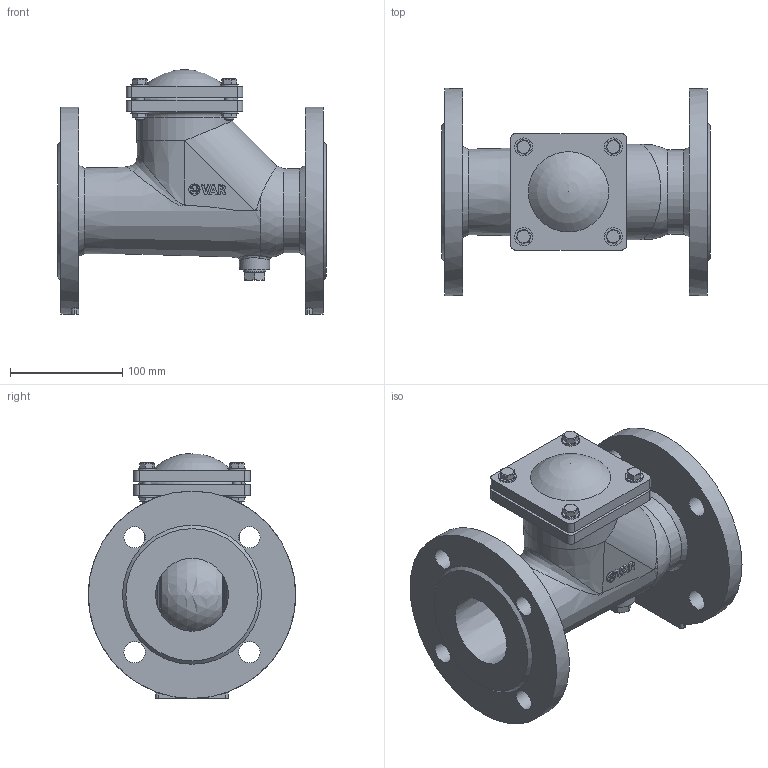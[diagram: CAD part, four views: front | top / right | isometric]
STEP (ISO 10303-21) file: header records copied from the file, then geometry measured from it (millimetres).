
FILE_DESCRIPTION(('STEP AP203'), '1');
FILE_NAME('Øàðîâîé îáðàòíûé êëàïàí VAG KRV', '', ('UNSPECIFIED'), ('UNSPECIFIED'), 'C3D Converter', 'C3D Toolkit', '');
FILE_SCHEMA(('CONFIG_CONTROL_DESIGN'));
Length unit declared in the file: millimetre
Assembly tree (22 placements, depth 2):
  (unnamed)
    (unnamed)
    (unnamed)
    (unnamed)
    (unnamed)
    (unnamed)
    (unnamed)  x4
    (unnamed)
    (unnamed)  x4
    (unnamed)  x4
    (unnamed)  x3
    (unnamed)
Bounding box: 240 x 185 x 218.5 mm (x, y, z)
Volume: 1489248.5 mm3; surface area: 345743.8 mm2
Topology: 23 solids, 24 shells, 547 faces, 1412 edges, 944 vertices
Faces by surface type: plane 255, extrusion 150, cylinder 75, cone 39, bspline 11, sphere 9, torus 8
Full cylindrical faces by diameter (mm): 6.647 x4, 8 x4, 8.4 x8, 9.868 x1, 10 x8, 12 x2, 13 x1, 16 x8, 16.63 x1, 19 x8, 20 x1, 27 x1, 65 x1, 75 x2, 85 x1, 185 x2
Entity records: 22089 total; most frequent: CARTESIAN_POINT 8821, ORIENTED_EDGE 2184, DIRECTION 1634, EDGE_CURVE 1092, VERTEX_POINT 754, VECTOR 694, EDGE_LOOP 578, B_SPLINE_CURVE_WITH_KNOTS 550
